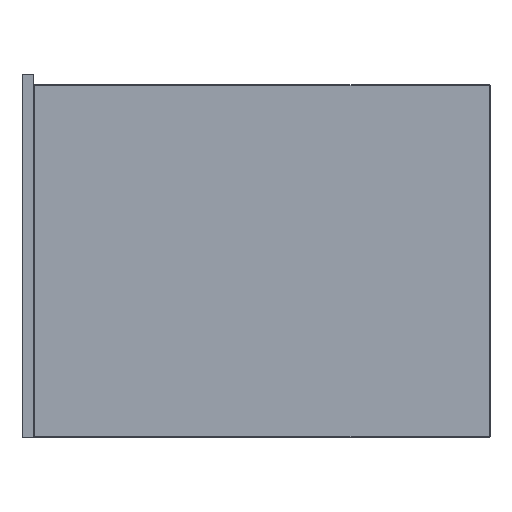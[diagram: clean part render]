
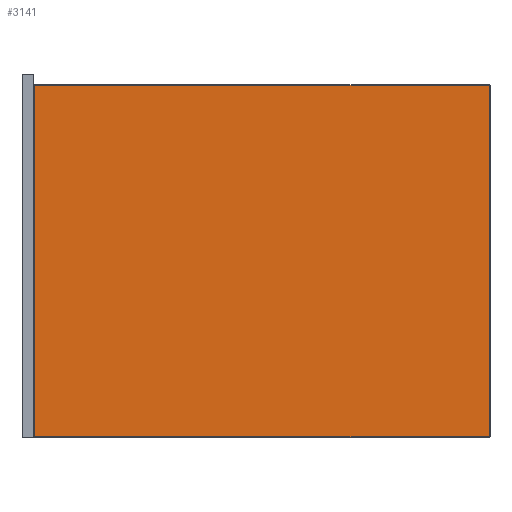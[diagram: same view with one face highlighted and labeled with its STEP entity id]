
A CAD part, left-side view. The second image highlights one B-rep face of the part: STEP entity #3141.
In plain terms, the highlighted planar face has unit normal (-1, 0, 0) as drawn and (0, 0, -1) by its records, which use the part's own axes.
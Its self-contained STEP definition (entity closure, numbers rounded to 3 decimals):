
#220 = VECTOR ( 'NONE', #2160, 1000. ) ;
#274 = CARTESIAN_POINT ( 'NONE',  ( 225., 291., 0. ) ) ;
#298 = CARTESIAN_POINT ( 'NONE',  ( -226., -291., 0. ) ) ;
#452 = CARTESIAN_POINT ( 'NONE',  ( 225., -292., 0. ) ) ;
#461 = CARTESIAN_POINT ( 'NONE',  ( -225., 291., 0. ) ) ;
#555 = ORIENTED_EDGE ( 'NONE', *, *, #1773, .T. ) ;
#604 = EDGE_CURVE ( 'NONE', #1694, #2195, #2697, .T. ) ;
#788 = CARTESIAN_POINT ( 'NONE',  ( -225., -291., 0. ) ) ;
#868 = DIRECTION ( 'NONE',  ( 0., 1., 0. ) ) ;
#951 = EDGE_CURVE ( 'NONE', #1612, #1694, #1829, .T. ) ;
#1054 = VECTOR ( 'NONE', #2493, 1000. ) ;
#1466 = ORIENTED_EDGE ( 'NONE', *, *, #604, .T. ) ;
#1474 = VERTEX_POINT ( 'NONE', #461 ) ;
#1612 = VERTEX_POINT ( 'NONE', #274 ) ;
#1694 = VERTEX_POINT ( 'NONE', #2211 ) ;
#1697 = CARTESIAN_POINT ( 'NONE',  ( 226., 291., 0. ) ) ;
#1773 = EDGE_CURVE ( 'NONE', #2195, #1474, #3232, .T. ) ;
#1829 = LINE ( 'NONE', #452, #3245 ) ;
#1942 = CARTESIAN_POINT ( 'NONE',  ( 0., 0., 0. ) ) ;
#2124 = VECTOR ( 'NONE', #868, 1000. ) ;
#2160 = DIRECTION ( 'NONE',  ( -1., 0., 0. ) ) ;
#2195 = VERTEX_POINT ( 'NONE', #788 ) ;
#2199 = CARTESIAN_POINT ( 'NONE',  ( -225., 292., 0. ) ) ;
#2211 = CARTESIAN_POINT ( 'NONE',  ( 225., -291., 0. ) ) ;
#2474 = DIRECTION ( 'NONE',  ( 0., 0., -1. ) ) ;
#2486 = PLANE ( 'NONE',  #2680 ) ;
#2493 = DIRECTION ( 'NONE',  ( 1., 0., 0. ) ) ;
#2540 = EDGE_CURVE ( 'NONE', #1474, #1612, #3009, .T. ) ;
#2554 = DIRECTION ( 'NONE',  ( 0., -1., 0. ) ) ;
#2680 = AXIS2_PLACEMENT_3D ( 'NONE', #1942, #2474, #3058 ) ;
#2697 = LINE ( 'NONE', #298, #220 ) ;
#2728 = FACE_OUTER_BOUND ( 'NONE', #2821, .T. ) ;
#2821 = EDGE_LOOP ( 'NONE', ( #555, #2933, #3241, #1466 ) ) ;
#2933 = ORIENTED_EDGE ( 'NONE', *, *, #2540, .T. ) ;
#3009 = LINE ( 'NONE', #1697, #1054 ) ;
#3058 = DIRECTION ( 'NONE',  ( -1., 0., 0. ) ) ;
#3141 = ADVANCED_FACE ( 'NONE', ( #2728 ), #2486, .T. ) ;
#3232 = LINE ( 'NONE', #2199, #2124 ) ;
#3241 = ORIENTED_EDGE ( 'NONE', *, *, #951, .T. ) ;
#3245 = VECTOR ( 'NONE', #2554, 1000. ) ;
